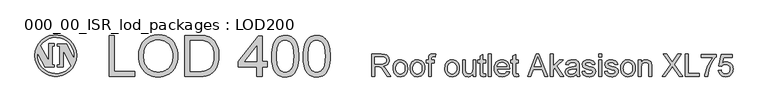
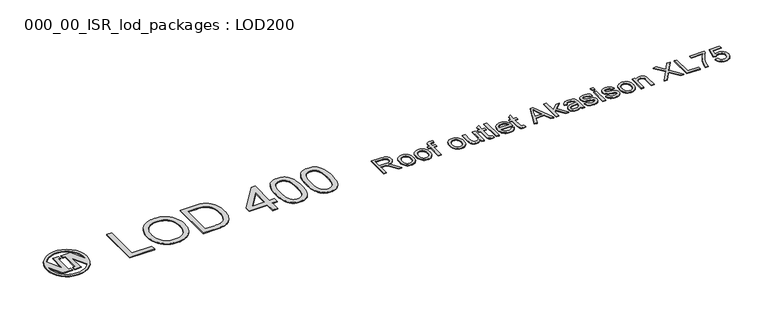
"""IFC4 building model written with IfcOpenShell, lengths in millimetres: proxy geometry, 000_00_ISR_lod_packages : LOD200."""

from ifc_helpers import new_model, si_unit, point, frame_2d, origin, origin_with_axes, place, context, project, spatial, polyline, circle_curve, trimmed, segment, composite_curve, outline, extrude, source, transform, mapped, element, save


def proxy_000_00_isr_lod_packages_lod200_d244b15a(model_context):
    return source(origin(), model_context, "Body", "SweptSolid", [
        extrude(outline(composite_curve([segment(trimmed(circle_curve(frame_2d((1250.0, 1250.0)), 750.0), [point((500.0, 1250.0))], [point((2000.0, 1250.0))], False, "CARTESIAN"), True, "CONTINUOUS"), segment(trimmed(circle_curve(frame_2d((1250.0, 1250.0)), 750.0), [point((2000.0, 1250.0))], [point((500.0, 1250.0))], False, "CARTESIAN"), True, "CONTINUOUS")], self_intersect=False), holes=[composite_curve([segment(polyline([(1785.9508714, 882.2274298), (1534.3731174, 1355.3763699), (1534.3731174, 814.8645493), (1287.5, 814.8645493), (1287.5, 935.1354507), (1371.8731174, 935.1354507), (1371.8731174, 1571.1145493), (1287.5, 1571.1145493), (1287.5, 1691.3854507), (1640.2267495, 1691.3854507), (1898.4865453, 1205.6694177)]), True, "CONTINUOUS"), segment(trimmed(circle_curve(frame_2d((1250.0, 1250.0)), 650.0), [point((1898.4865453, 1205.6694177))], [point((714.0491286, 1617.7725702))], True, "CARTESIAN"), True, "CONTINUOUS"), segment(polyline([(714.0491286, 1617.7725702), (978.1268826, 1121.1145493), (978.1268826, 1696.1145493), (1212.5, 1696.1145493), (1212.5, 1571.1145493), (1140.6268826, 1571.1145493), (1140.6268826, 935.1354507), (1212.5, 935.1354507), (1212.5, 814.8645493), (856.4500666, 814.8645493), (601.5134547, 1294.3305823)]), True, "CONTINUOUS"), segment(trimmed(circle_curve(frame_2d((1250.0, 1250.0)), 650.0), [point((601.5134547, 1294.3305823))], [point((1785.9508714, 882.2274298))], True, "CARTESIAN"), True, "CONTINUOUS")], self_intersect=False)]), origin_with_axes(), (0.0, 0.0, 1.0), 25.0),
        extrude(outline(polyline([(12587.4331389, 500.0), (12587.4331389, 1299.3886983), (12931.8962865, 1299.3886983), (13024.4768563, 1293.9973134), (13061.3078221, 1287.2580822), (13091.8325751, 1277.8231585), (13117.8258813, 1264.966779), (13141.0625066, 1247.9631803), (13161.5424508, 1226.8123624), (13179.265714, 1201.5143252), (13193.5675214, 1173.4291129), (13203.7830981, 1143.9167692), (13209.9124441, 1112.9772942), (13211.9555595, 1080.6106879), (13208.5706967, 1039.5532178), (13198.4161085, 1001.8623139), (13181.4917949, 967.5379762), (13157.7977558, 936.5802046), (13127.0290487, 909.9770132), (13088.8807309, 888.716416), (13043.3528025, 872.7984129), (12990.4452634, 862.2230039), (13023.3790629, 840.7062549), (13047.237771, 819.4822508), (13088.1732641, 770.9353907), (13128.2305225, 716.6312146), (13261.5270266, 500.0), (13145.404889, 500.0), (13041.3828733, 665.6936047), (12966.2450196, 775.3753548), (12938.3122785, 807.3577335), (12913.4533587, 827.1911994), (12889.9117909, 838.8278086), (12865.9311058, 846.2196169), (12807.9676186, 849.7325555), (12687.3567262, 849.7325555), (12687.3567262, 500.0), (12587.4331389, 500.0)]), holes=[polyline([(12687.3567262, 949.6561428), (12911.013818, 949.6561428), (12975.2469248, 953.1934768), (13025.0867414, 963.8054789), (13062.6068775, 982.1996158), (13077.5246689, 994.5802849), (13089.8809426, 1009.0833544), (13106.4942148, 1041.602432), (13112.0319722, 1076.902586), (13109.3911694, 1102.4567749), (13101.4687609, 1125.6446093), (13088.2647468, 1146.4660892), (13069.7791272, 1164.9212147), (13045.5849822, 1180.0341693), (13015.2553924, 1190.829137), (12978.7903577, 1197.3061175), (12936.1898781, 1199.465111), (12687.3567262, 1199.465111), (12687.3567262, 949.6561428)])]), origin_with_axes(), (0.0, 0.0, 1.0), 25.0),
        extrude(outline(polyline([(13349.350492, 793.5255377), (13354.7540747, 869.5538238), (13361.508553, 903.6250591), (13370.9648226, 935.0676894), (13383.1228836, 963.8817146), (13397.982736, 990.0671346), (13415.5443796, 1013.6239495), (13435.8078146, 1034.5521594), (13473.889045, 1062.9850063), (13515.9223314, 1083.2941827), (13561.9076736, 1095.4796885), (13611.8450719, 1099.5415238), (13666.972593, 1094.595355), (13716.8185084, 1079.7568486), (13761.3828183, 1055.0260047), (13800.6655225, 1020.4028233), (13832.7271862, 977.0582838), (13855.6283746, 926.1633658), (13869.3690876, 867.7180694), (13873.9493253, 801.7223944), (13871.9245065, 748.2354645), (13865.8500501, 700.7742001), (13855.7259562, 659.3386012), (13841.5522247, 623.9286678), (13823.5057223, 593.3429262), (13801.7633158, 566.3799026), (13776.3250051, 543.0395969), (13747.1907902, 523.3220091), (13715.4950576, 507.654059), (13682.3721937, 496.462666), (13647.8221984, 489.7478302), (13611.8450719, 487.5095516), (13555.9125024, 492.4374238), (13505.6030742, 507.2210405), (13460.9167873, 531.8604016), (13421.8536418, 566.3555072), (13390.1335137, 610.1208674), (13367.4762794, 662.5709926), (13353.8819388, 723.7058827), (13349.350492, 793.5255377)]), holes=[polyline([(13449.2740793, 793.7207009), (13452.164935, 745.253126), (13460.8375022, 703.286927), (13475.2917809, 667.822104), (13495.5277711, 638.858657), (13520.1427368, 616.3599928), (13547.7339422, 600.2895184), (13578.3013872, 590.6472338), (13611.8450719, 587.4331389), (13645.2179887, 590.6655303), (13675.6634567, 600.3627046), (13703.1814759, 616.5246618), (13727.7720462, 639.1514018), (13748.0080364, 668.4014949), (13762.462315, 704.4335111), (13771.1348822, 747.2474505), (13774.025738, 796.843313), (13771.1165857, 843.7739774), (13762.3891288, 884.642383), (13747.8433674, 919.44853), (13727.4793013, 948.1924184), (13702.7972482, 970.6910825), (13675.2975256, 986.7615569), (13644.9801335, 996.4038416), (13611.8450719, 999.6179365), (13578.3013872, 996.4160393), (13547.7339422, 986.8103478), (13520.1427368, 970.8008619), (13495.5277711, 948.3875817), (13475.2917809, 919.5095186), (13460.8375022, 884.1056841), (13452.164935, 842.1760782), (13449.2740793, 793.7207009)])]), origin_with_axes(), (0.0, 0.0, 1.0), 25.0),
        extrude(outline(polyline([(13961.3824642, 793.5255377), (13966.7860468, 869.5538238), (13973.5405251, 903.6250591), (13982.9967948, 935.0676894), (13995.1548558, 963.8817146), (14010.0147081, 990.0671346), (14027.5763518, 1013.6239495), (14047.8397868, 1034.5521594), (14085.9210172, 1062.9850063), (14127.9543035, 1083.2941827), (14173.9396458, 1095.4796885), (14223.8770441, 1099.5415238), (14279.0045651, 1094.595355), (14328.8504806, 1079.7568486), (14373.4147904, 1055.0260047), (14412.6974947, 1020.4028233), (14444.7591584, 977.0582838), (14467.6603467, 926.1633658), (14481.4010598, 867.7180694), (14485.9812974, 801.7223944), (14483.9564787, 748.2354645), (14477.8820223, 700.7742001), (14467.7579284, 659.3386012), (14453.5841969, 623.9286678), (14435.5376945, 593.3429262), (14413.795288, 566.3799026), (14388.3569773, 543.0395969), (14359.2227624, 523.3220091), (14327.5270298, 507.654059), (14294.4041658, 496.462666), (14259.8541706, 489.7478302), (14223.8770441, 487.5095516), (14167.9444745, 492.4374238), (14117.6350463, 507.2210405), (14072.9487595, 531.8604016), (14033.8856139, 566.3555072), (14002.1654859, 610.1208674), (13979.5082516, 662.5709926), (13965.913911, 723.7058827), (13961.3824642, 793.5255377)]), holes=[polyline([(14061.3060514, 793.7207009), (14064.1969072, 745.253126), (14072.8694744, 703.286927), (14087.3237531, 667.822104), (14107.5597432, 638.858657), (14132.1747089, 616.3599928), (14159.7659143, 600.2895184), (14190.3333594, 590.6472338), (14223.8770441, 587.4331389), (14257.2499609, 590.6655303), (14287.6954289, 600.3627046), (14315.2134481, 616.5246618), (14339.8040184, 639.1514018), (14360.0400085, 668.4014949), (14374.4942872, 704.4335111), (14383.1668544, 747.2474505), (14386.0577102, 796.843313), (14383.1485579, 843.7739774), (14374.421101, 884.642383), (14359.8753395, 919.44853), (14339.5112735, 948.1924184), (14314.8292204, 970.6910825), (14287.3294978, 986.7615569), (14257.0121057, 996.4038416), (14223.8770441, 999.6179365), (14190.3333594, 996.4160393), (14159.7659143, 986.8103478), (14132.1747089, 970.8008619), (14107.5597432, 948.3875817), (14087.3237531, 919.5095186), (14072.8694744, 884.1056841), (14064.1969072, 842.1760782), (14061.3060514, 793.7207009)])]), origin_with_axes(), (0.0, 0.0, 1.0), 25.0),
        extrude(outline(polyline([(14623.37623, 500.0), (14623.37623, 987.1274881), (14535.9430911, 987.1274881), (14535.9430911, 1087.0510753), (14623.37623, 1087.0510753), (14623.37623, 1146.185542), (14626.0109339, 1195.1227286), (14633.9150458, 1229.5202525), (14642.5998107, 1246.9995617), (14654.0168612, 1262.7467969), (14685.047819, 1289.0450458), (14705.0276574, 1299.0349649), (14728.4716436, 1306.1706215), (14755.3797775, 1310.4520154), (14785.7520593, 1311.8791468), (14829.1270931, 1309.1468612), (14876.8933001, 1300.9500044), (14862.2560558, 1207.2716413), (14804.6828952, 1211.9555595), (14766.6992464, 1207.8083403), (14752.5926023, 1202.6243163), (14741.742745, 1195.3666827), (14733.6739641, 1185.2791818), (14727.9105492, 1171.6055562), (14723.2998173, 1133.4999304), (14723.2998173, 1087.0510753), (14835.713853, 1087.0510753), (14835.713853, 987.1274881), (14723.2998173, 987.1274881), (14723.2998173, 500.0), (14623.37623, 500.0)])), origin_with_axes(), (0.0, 0.0, 1.0), 25.0),
        extrude(outline(polyline([(15210.4273053, 793.5255377), (15215.830888, 869.5538238), (15222.5853663, 903.6250591), (15232.041636, 935.0676894), (15244.199697, 963.8817146), (15259.0595493, 990.0671346), (15276.6211929, 1013.6239495), (15296.8846279, 1034.5521594), (15334.9658583, 1062.9850063), (15376.9991447, 1083.2941827), (15422.984487, 1095.4796885), (15472.9218852, 1099.5415238), (15528.0494063, 1094.595355), (15577.8953218, 1079.7568486), (15622.4596316, 1055.0260047), (15661.7423358, 1020.4028233), (15693.8039995, 977.0582838), (15716.7051879, 926.1633658), (15730.4459009, 867.7180694), (15735.0261386, 801.7223944), (15733.0013198, 748.2354645), (15726.9268635, 700.7742001), (15716.8027695, 659.3386012), (15702.629038, 623.9286678), (15684.5825357, 593.3429262), (15662.8401291, 566.3799026), (15637.4018184, 543.0395969), (15608.2676036, 523.3220091), (15576.5718709, 507.654059), (15543.449007, 496.462666), (15508.8990118, 489.7478302), (15472.9218852, 487.5095516), (15416.9893157, 492.4374238), (15366.6798875, 507.2210405), (15321.9936006, 531.8604016), (15282.9304551, 566.3555072), (15251.2103271, 610.1208674), (15228.5530928, 662.5709926), (15214.9587522, 723.7058827), (15210.4273053, 793.5255377)]), holes=[polyline([(15310.3508926, 793.7207009), (15313.2417483, 745.253126), (15321.9143156, 703.286927), (15336.3685942, 667.822104), (15356.6045844, 638.858657), (15381.2195501, 616.3599928), (15408.8107555, 600.2895184), (15439.3782005, 590.6472338), (15472.9218852, 587.4331389), (15506.2948021, 590.6655303), (15536.7402701, 600.3627046), (15564.2582892, 616.5246618), (15588.8488595, 639.1514018), (15609.0848497, 668.4014949), (15623.5391284, 704.4335111), (15632.2116956, 747.2474505), (15635.1025513, 796.843313), (15632.193399, 843.7739774), (15623.4659421, 884.642383), (15608.9201807, 919.44853), (15588.5561147, 948.1924184), (15563.8740616, 970.6910825), (15536.374339, 986.7615569), (15506.0569468, 996.4038416), (15472.9218852, 999.6179365), (15439.3782005, 996.4160393), (15408.8107555, 986.8103478), (15381.2195501, 970.8008619), (15356.6045844, 948.3875817), (15336.3685942, 919.5095186), (15321.9143156, 884.1056841), (15313.2417483, 842.1760782), (15310.3508926, 793.7207009)])]), origin_with_axes(), (0.0, 0.0, 1.0), 25.0),
        extrude(outline(polyline([(16222.1536267, 500.0), (16222.1536267, 600.8994036), (16204.8206899, 574.323657), (16185.9996334, 551.2913433), (16165.690457, 531.8024625), (16143.8931608, 515.8570146), (16120.6077448, 503.4549995), (16095.8342089, 494.5964173), (16069.5725532, 489.281268), (16041.8227777, 487.5095516), (15993.1539406, 492.4862146), (15947.8516697, 507.4162037), (15909.8436256, 529.8599782), (15883.0574686, 557.3779974), (15865.0292628, 590.7997051), (15853.295072, 630.9545451), (15848.9038987, 668.8162168), (15847.4401743, 723.8522551), (15847.4401743, 1087.0510753), (15947.3637616, 1087.0510753), (15947.3637616, 770.8865999), (15948.8762768, 707.6537048), (15953.4138225, 669.0113801), (15959.3967961, 651.0014708), (15967.9778806, 635.028578), (15979.1570758, 621.0927018), (15992.934382, 609.193842), (16008.895077, 599.6735344), (16026.6244391, 592.8733147), (16067.3891643, 587.4331389), (16110.4958486, 592.9952917), (16150.8214564, 609.6817501), (16168.8679588, 621.8123663), (16184.0723962, 635.9556035), (16196.4347688, 652.1114618), (16205.9550764, 670.2799412), (16218.1039891, 717.2898906), (16222.1536267, 781.620579), (16222.1536267, 1087.0510753), (16322.0772139, 1087.0510753), (16322.0772139, 500.0), (16222.1536267, 500.0)])), origin_with_axes(), (0.0, 0.0, 1.0), 25.0),
        extrude(outline(polyline([(16671.8097695, 583.3347105), (16684.3002179, 497.0725512), (16644.7308676, 489.9003015), (16609.5526907, 487.5095516), (16561.5913204, 491.6567708), (16525.8276537, 504.0984284), (16500.554012, 523.2732183), (16484.0627168, 547.6198346), (16474.9876254, 589.4335623), (16471.9625949, 661.0096866), (16471.9625949, 987.1274881), (16397.0199044, 987.1274881), (16397.0199044, 1087.0510753), (16471.9625949, 1087.0510753), (16471.9625949, 1229.7154158), (16571.8861822, 1288.459556), (16571.8861822, 1087.0510753), (16671.8097695, 1087.0510753), (16671.8097695, 987.1274881), (16571.8861822, 987.1274881), (16571.8861822, 663.9371354), (16573.2035342, 631.0521267), (16577.1555901, 612.4140357), (16584.0594903, 602.0947785), (16594.232375, 594.1662712), (16608.6500606, 589.116422), (16628.2883633, 587.4331389), (16671.8097695, 583.3347105)])), origin_with_axes(), (0.0, 0.0, 1.0), 25.0),
        extrude(outline(polyline([(16771.7333568, 500.0), (16771.7333568, 1299.3886983), (16871.6569441, 1299.3886983), (16871.6569441, 500.0), (16771.7333568, 500.0)])), origin_with_axes(), (0.0, 0.0, 1.0), 25.0),
        extrude(outline(polyline([(17432.556143, 674.8662778), (17530.5280978, 662.3758294), (17515.5066259, 623.1358171), (17495.2279438, 588.5553276), (17469.6920514, 558.6343609), (17438.8989489, 533.3729168), (17403.1657764, 513.3076945), (17362.8096743, 498.9753929), (17317.8306425, 490.3760119), (17268.2286811, 487.5095516), (17206.2277541, 492.4557204), (17150.9843548, 507.2942267), (17102.4984833, 532.0250706), (17060.7701395, 566.6482521), (17027.2142571, 610.2001525), (17003.2457697, 661.7171534), (16988.8646772, 721.1992546), (16984.0709798, 788.6464563), (16988.9134681, 858.3807273), (17003.440933, 919.8449554), (17027.6533745, 973.0391405), (17043.3914614, 996.5349669), (17061.5507926, 1017.9632826), (17103.169357, 1053.6537631), (17150.5452375, 1079.1469635), (17203.6784341, 1094.4428837), (17262.5689467, 1099.5415238), (17319.5627164, 1094.4550814), (17371.1041127, 1079.1957543), (17417.1931354, 1053.7635424), (17457.8297847, 1018.1584458), (17491.0014395, 973.3318854), (17514.6954786, 920.2352819), (17528.9119021, 858.8686355), (17533.6507099, 789.231946), (17533.0652201, 762.2994166), (17083.9945671, 762.2994166), (17089.7823774, 722.4251238), (17101.2909107, 687.5030986), (17118.5201669, 657.5333411), (17141.4701461, 632.5158511), (17168.872287, 612.7921645), (17199.4580286, 598.7038169), (17233.2273709, 590.2508084), (17270.1803137, 587.4331389), (17323.3623011, 592.653756), (17368.1522684, 608.3156073), (17387.4002446, 620.3059499), (17404.5502157, 635.3945091), (17419.6021819, 653.5812851), (17432.556143, 674.8662778)]), holes=[polyline([(17083.9945671, 862.2230039), (17433.7271226, 862.2230039), (17428.5918894, 890.4972807), (17420.2120671, 915.0146648), (17408.5876556, 935.7751562), (17393.718655, 952.7787549), (17366.4689853, 973.2708968), (17335.462423, 987.9081411), (17300.6989679, 996.6904876), (17262.1786202, 999.6179365), (17227.0431352, 997.2820762), (17194.8229013, 990.2744956), (17165.5179186, 978.5951944), (17139.128187, 962.2441729), (17116.9832562, 941.9776884), (17100.412676, 918.5519988), (17089.4164463, 891.967104), (17083.9945671, 862.2230039)])]), origin_with_axes(), (0.0, 0.0, 1.0), 25.0),
        extrude(outline(polyline([(17845.9119202, 583.3347105), (17858.4023686, 497.0725512), (17818.8330183, 489.9003015), (17783.6548414, 487.5095516), (17735.6934711, 491.6567708), (17699.9298044, 504.0984284), (17674.6561626, 523.2732183), (17658.1648675, 547.6198346), (17649.0897761, 589.4335623), (17646.0647456, 661.0096866), (17646.0647456, 987.1274881), (17571.1220551, 987.1274881), (17571.1220551, 1087.0510753), (17646.0647456, 1087.0510753), (17646.0647456, 1229.7154158), (17745.9883329, 1288.459556), (17745.9883329, 1087.0510753), (17845.9119202, 1087.0510753), (17845.9119202, 987.1274881), (17745.9883329, 987.1274881), (17745.9883329, 663.9371354), (17747.3056849, 631.0521267), (17751.2577408, 612.4140357), (17758.161641, 602.0947785), (17768.3345257, 594.1662712), (17782.7522113, 589.116422), (17802.390514, 587.4331389), (17845.9119202, 583.3347105)])), origin_with_axes(), (0.0, 0.0, 1.0), 25.0),
        extrude(outline(polyline([(18177.4942928, 500.0), (18496.5862171, 1299.3886983), (18581.6773969, 1299.3886983), (18900.7693212, 500.0), (18795.1859994, 500.0), (18703.6544322, 749.8089682), (18374.4140186, 749.8089682), (18283.0776146, 500.0), (18177.4942928, 500.0)]), holes=[polyline([(18411.1047108, 849.7325555), (18667.1589032, 849.7325555), (18595.1436616, 1046.2619548), (18539.131807, 1199.465111), (18489.3651766, 1063.4363213), (18411.1047108, 849.7325555)])]), origin_with_axes(), (0.0, 0.0, 1.0), 25.0),
        extrude(outline(polyline([(18995.033174, 500.0), (18995.033174, 1299.3886983), (19094.9567613, 1299.3886983), (19094.9567613, 869.8343709), (19319.0041797, 1087.0510753), (19457.1797653, 1087.0510753), (19230.4000613, 867.1020853), (19469.6702137, 500.0), (19352.9625863, 500.0), (19158.7751462, 797.6239661), (19094.9567613, 735.7572138), (19094.9567613, 500.0), (18995.033174, 500.0)])), origin_with_axes(), (0.0, 0.0, 1.0), 25.0),
        extrude(outline(polyline([(19931.8168049, 574.9426905), (19884.0749933, 534.0071974), (19859.6734874, 518.8454519), (19834.9182481, 507.2210405), (19783.2243805, 492.4374238), (19727.8712019, 487.5095516), (19683.3800783, 490.4735935), (19644.3657236, 499.3657194), (19610.8281377, 514.1859292), (19582.7673208, 534.9342229), (19560.6101923, 560.2932485), (19544.783672, 588.9456541), (19535.2877598, 620.8914397), (19532.1224557, 656.1306051), (19536.9039555, 697.5540063), (19551.2484549, 735.171724), (19573.3750891, 767.3736613), (19601.5029934, 792.5497214), (19634.5587699, 811.5781389), (19671.4690208, 825.3371485), (19757.9263434, 840.3647192), (19860.0943082, 856.172943), (19931.2313151, 874.7134523), (19931.8168049, 896.9620636), (19930.0969287, 921.1867028), (19924.9373001, 941.5568677), (19916.3379191, 958.0725583), (19904.2987857, 970.7337745), (19883.4895035, 983.3705954), (19858.1426756, 992.396896), (19828.258302, 997.8126763), (19793.8363826, 999.6179365), (19734.3115894, 994.8120413), (19711.2823251, 988.8046723), (19692.7418158, 980.3943557), (19677.5068841, 968.9224155), (19664.3943528, 953.7301758), (19653.4042219, 934.8176365), (19644.5364914, 912.1847976), (19544.6129041, 924.675246), (19561.9580386, 979.3209578), (19573.8325029, 1002.2526404), (19587.8415654, 1022.2568742), (19604.5890124, 1039.7361834), (19624.6786301, 1055.0930921), (19648.1104186, 1068.3276004), (19674.8843778, 1079.4397083), (19736.2876174, 1094.5160699), (19806.7171575, 1099.5415238), (19874.2680397, 1095.1015597), (19927.8159581, 1081.7816674), (19968.1903568, 1061.7530382), (19996.2206795, 1037.1868633), (20014.8099797, 1006.8145815), (20026.8613108, 969.3676317), (20030.5206218, 934.8237353), (20031.7403922, 881.9344928), (20031.7403922, 757.6154985), (20033.0089534, 649.3242866), (20036.8146369, 584.0177819), (20044.3284222, 541.1062609), (20056.721289, 500.0), (19956.7977017, 500.0), (19940.7943147, 534.7390596), (19931.8168049, 574.9426905)]), holes=[polyline([(19931.8168049, 774.7898651), (19864.6806447, 758.1521974), (19770.6119551, 744.1492338), (19718.7717151, 736.489076), (19684.6425406, 727.9506835), (19662.2719524, 716.8751687), (19645.707471, 701.6036439), (19635.4614, 683.3070886), (19632.046043, 663.1564824), (19633.9061928, 647.6288058), (19639.4866422, 633.4428766), (19648.7873911, 620.5986948), (19661.8084396, 609.0962603), (19678.4278107, 599.6186447), (19698.5235272, 592.8489192), (19749.1439969, 587.4331389), (19802.8138924, 593.4100136), (19827.3068811, 600.881107), (19850.2385637, 611.3406378), (19888.6857252, 637.7608636), (19915.4230914, 669.2065433), (19927.2792592, 701.6036439), (19931.2313151, 746.4911929), (19931.8168049, 774.7898651)])]), origin_with_axes(), (0.0, 0.0, 1.0), 25.0),
        extrude(outline(polyline([(20131.6639795, 674.8662778), (20231.5875668, 687.3567262), (20237.62543, 664.571416), (20247.3469997, 644.615973), (20260.7522759, 627.4903973), (20277.8412586, 613.1946887), (20298.6627385, 601.9240107), (20323.2655065, 593.8735263), (20351.6495626, 589.0432357), (20383.8149068, 587.4331389), (20415.9436579, 588.909061), (20443.6324449, 593.3368274), (20466.8812678, 600.716438), (20485.6901267, 611.0478929), (20500.2053938, 623.3675735), (20510.5734418, 636.7118611), (20516.7942706, 651.0807559), (20518.8678802, 666.4742577), (20516.7820729, 679.9649178), (20510.524651, 691.9430627), (20500.0956145, 702.4086923), (20485.4949634, 711.3618067), (20448.072409, 724.0474184), (20382.6439273, 739.8556422), (20291.4538957, 766.2270772), (20232.1730565, 788.7440379), (20194.0918261, 813.3102128), (20178.9849703, 828.5756388), (20166.5006208, 845.8292904), (20149.7409761, 884.2276611), (20144.1544279, 926.4317153), (20148.6431828, 965.1472263), (20162.1094475, 1000.8864976), (20183.3334516, 1032.2345957), (20211.0954249, 1057.7765869), (20238.6866302, 1073.8531601), (20274.6210648, 1087.3438202), (20316.166443, 1096.4920979), (20360.5904793, 1099.5415238), (20425.6286345, 1094.6380469), (20482.177188, 1079.9276165), (20527.6502268, 1056.8495614), (20545.2637107, 1042.712423), (20559.4618376, 1026.8432107), (20580.5394693, 987.6885824), (20593.8105707, 937.1656944), (20493.8869834, 924.675246), (20489.1237802, 941.3678033), (20481.274558, 956.1209257), (20470.3393168, 968.9346132), (20456.3180566, 979.8088659), (20439.1497888, 988.4753343), (20418.7735251, 994.6656688), (20368.3970095, 999.6179365), (20311.0190121, 994.8852275), (20289.5022631, 988.9693413), (20272.7670139, 980.6871006), (20251.2502649, 960.1949587), (20245.8710776, 948.7779082), (20244.0780152, 936.5802046), (20247.0542548, 921.2110982), (20255.9829738, 907.5008794), (20271.2544986, 895.2543851), (20293.2591558, 885.4474315), (20379.3261519, 864.1746365), (20467.61313, 838.071551), (20525.9913391, 817.1402917), (20564.7312455, 794.6477264), (20594.1033156, 763.8607227), (20604.9043821, 745.332411), (20612.6194296, 724.681699), (20617.248458, 701.9085865), (20618.7914675, 677.0130736), (20616.9801086, 652.0077814), (20611.5460316, 627.7343513), (20602.4892368, 604.1927835), (20589.809724, 581.3830779), (20573.7148542, 560.2139635), (20554.4119883, 541.594169), (20531.9011265, 525.5236946), (20506.1822686, 512.0025403), (20477.9567826, 501.2868577), (20447.9260365, 493.6327988), (20416.0900303, 489.0403634), (20382.448764, 487.5095516), (20328.6690891, 490.4613958), (20281.6957329, 499.3169286), (20241.5286952, 514.0761499), (20208.167976, 534.7390596), (20180.9183063, 561.2080763), (20159.084417, 593.3856182), (20142.6663081, 631.2716854), (20131.6639795, 674.8662778)])), origin_with_axes(), (0.0, 0.0, 1.0), 25.0),
        extrude(outline(polyline([(20731.2055032, 1199.465111), (20731.2055032, 1299.3886983), (20831.1290905, 1299.3886983), (20831.1290905, 1199.465111), (20731.2055032, 1199.465111)])), origin_with_axes(), (0.0, 0.0, 1.0), 25.0),
        extrude(outline(polyline([(20731.2055032, 500.0), (20731.2055032, 1087.0510753), (20831.1290905, 1087.0510753), (20831.1290905, 500.0), (20731.2055032, 500.0)])), origin_with_axes(), (0.0, 0.0, 1.0), 25.0),
        extrude(outline(polyline([(20943.5431262, 674.8662778), (21043.4667135, 687.3567262), (21049.5045768, 664.571416), (21059.2261465, 644.615973), (21072.6314227, 627.4903973), (21089.7204053, 613.1946887), (21110.5418852, 601.9240107), (21135.1446532, 593.8735263), (21163.5287093, 589.0432357), (21195.6940535, 587.4331389), (21227.8228046, 588.909061), (21255.5115916, 593.3368274), (21278.7604146, 600.716438), (21297.5692734, 611.0478929), (21312.0845406, 623.3675735), (21322.4525886, 636.7118611), (21328.6734174, 651.0807559), (21330.747027, 666.4742577), (21328.6612197, 679.9649178), (21322.4037978, 691.9430627), (21311.9747613, 702.4086923), (21297.3741101, 711.3618067), (21259.9515557, 724.0474184), (21194.523074, 739.8556422), (21103.3330424, 766.2270772), (21044.0522033, 788.7440379), (21005.9709729, 813.3102128), (20990.8641171, 828.5756388), (20978.3797675, 845.8292904), (20961.6201229, 884.2276611), (20956.0335746, 926.4317153), (20960.5223295, 965.1472263), (20973.9885942, 1000.8864976), (20995.2125984, 1032.2345957), (21022.9745716, 1057.7765869), (21050.565777, 1073.8531601), (21086.5002116, 1087.3438202), (21128.0455898, 1096.4920979), (21172.469626, 1099.5415238), (21237.5077812, 1094.6380469), (21294.0563348, 1079.9276165), (21339.5293735, 1056.8495614), (21357.1428574, 1042.712423), (21371.3409843, 1026.8432107), (21392.418616, 987.6885824), (21405.6897175, 937.1656944), (21305.7661302, 924.675246), (21301.0029269, 941.3678033), (21293.1537047, 956.1209257), (21282.2184635, 968.9346132), (21268.1972033, 979.8088659), (21251.0289356, 988.4753343), (21230.6526719, 994.6656688), (21180.2761563, 999.6179365), (21122.8981589, 994.8852275), (21101.3814099, 988.9693413), (21084.6461606, 980.6871006), (21063.1294116, 960.1949587), (21057.7502244, 948.7779082), (21055.9571619, 936.5802046), (21058.9334016, 921.2110982), (21067.8621206, 907.5008794), (21083.1336454, 895.2543851), (21105.1383026, 885.4474315), (21191.2052986, 864.1746365), (21279.4922768, 838.071551), (21337.8704859, 817.1402917), (21376.6103923, 794.6477264), (21405.9824624, 763.8607227), (21416.7835288, 745.332411), (21424.4985763, 724.681699), (21429.1276048, 701.9085865), (21430.6706143, 677.0130736), (21428.8592553, 652.0077814), (21423.4251784, 627.7343513), (21414.3683835, 604.1927835), (21401.6888707, 581.3830779), (21385.5940009, 560.2139635), (21366.2911351, 541.594169), (21343.7802732, 525.5236946), (21318.0614153, 512.0025403), (21289.8359294, 501.2868577), (21259.8051833, 493.6327988), (21227.9691771, 489.0403634), (21194.3279108, 487.5095516), (21140.5482359, 490.4613958), (21093.5748796, 499.3169286), (21053.4078419, 514.0761499), (21020.0471228, 534.7390596), (20992.7974531, 561.2080763), (20970.9635638, 593.3856182), (20954.5454548, 631.2716854), (20943.5431262, 674.8662778)])), origin_with_axes(), (0.0, 0.0, 1.0), 25.0),
        extrude(outline(polyline([(21518.1037532, 793.5255377), (21523.5073358, 869.5538238), (21530.2618142, 903.6250591), (21539.7180838, 935.0676894), (21551.8761448, 963.8817146), (21566.7359971, 990.0671346), (21584.2976408, 1013.6239495), (21604.5610758, 1034.5521594), (21642.6423062, 1062.9850063), (21684.6755925, 1083.2941827), (21730.6609348, 1095.4796885), (21780.5983331, 1099.5415238), (21835.7258542, 1094.595355), (21885.5717696, 1079.7568486), (21930.1360795, 1055.0260047), (21969.4187837, 1020.4028233), (22001.4804474, 977.0582838), (22024.3816358, 926.1633658), (22038.1223488, 867.7180694), (22042.7025865, 801.7223944), (22040.6777677, 748.2354645), (22034.6033113, 700.7742001), (22024.4792174, 659.3386012), (22010.3054859, 623.9286678), (21992.2589835, 593.3429262), (21970.516577, 566.3799026), (21945.0782663, 543.0395969), (21915.9440514, 523.3220091), (21884.2483188, 507.654059), (21851.1254549, 496.462666), (21816.5754596, 489.7478302), (21780.5983331, 487.5095516), (21724.6657635, 492.4374238), (21674.3563354, 507.2210405), (21629.6700485, 531.8604016), (21590.6069029, 566.3555072), (21558.8867749, 610.1208674), (21536.2295406, 662.5709926), (21522.6352, 723.7058827), (21518.1037532, 793.5255377)]), holes=[polyline([(21618.0273405, 793.7207009), (21620.9181962, 745.253126), (21629.5907634, 703.286927), (21644.0450421, 667.822104), (21664.2810322, 638.858657), (21688.895998, 616.3599928), (21716.4872033, 600.2895184), (21747.0546484, 590.6472338), (21780.5983331, 587.4331389), (21813.9712499, 590.6655303), (21844.4167179, 600.3627046), (21871.9347371, 616.5246618), (21896.5253074, 639.1514018), (21916.7612975, 668.4014949), (21931.2155762, 704.4335111), (21939.8881434, 747.2474505), (21942.7789992, 796.843313), (21939.8698469, 843.7739774), (21931.14239, 884.642383), (21916.5966285, 919.44853), (21896.2325625, 948.1924184), (21871.5505094, 970.6910825), (21844.0507868, 986.7615569), (21813.7333947, 996.4038416), (21780.5983331, 999.6179365), (21747.0546484, 996.4160393), (21716.4872033, 986.8103478), (21688.895998, 970.8008619), (21664.2810322, 948.3875817), (21644.0450421, 919.5095186), (21629.5907634, 884.1056841), (21620.9181962, 842.1760782), (21618.0273405, 793.7207009)])]), origin_with_axes(), (0.0, 0.0, 1.0), 25.0),
        extrude(outline(polyline([(22155.1166222, 500.0), (22155.1166222, 1087.0510753), (22255.0402095, 1087.0510753), (22255.0402095, 1005.0825076), (22271.5254058, 1027.2213395), (22289.7548737, 1046.4083272), (22309.7286132, 1062.6434706), (22331.4466243, 1075.9267697), (22354.9089071, 1086.2582246), (22380.1154614, 1093.6378352), (22435.7613849, 1099.5415238), (22485.0157118, 1094.7844194), (22530.1228194, 1080.5131063), (22567.7405371, 1058.5084491), (22594.526694, 1030.5513126), (22612.7012723, 996.714883), (22624.4842539, 957.0723466), (22628.4363098, 919.161884), (22629.7536618, 860.4665346), (22629.7536618, 500.0), (22529.8300745, 500.0), (22529.8300745, 847.0002699), (22526.9514165, 898.6697421), (22518.3154424, 935.4092251), (22502.3852416, 961.7318693), (22477.6239034, 982.150825), (22445.8854788, 995.2511586), (22409.0240188, 999.6179365), (22378.6822313, 997.1661981), (22350.4994373, 989.8109828), (22324.4756368, 977.5522908), (22300.6108298, 960.3901219), (22280.6736834, 936.3728437), (22266.4328645, 903.5488235), (22257.8883732, 861.9180613), (22255.0402095, 811.4805573), (22255.0402095, 500.0), (22155.1166222, 500.0)])), origin_with_axes(), (0.0, 0.0, 1.0), 25.0),
        extrude(outline(polyline([(23004.4671142, 500.0), (23312.6298961, 935.6043884), (23054.4289078, 1299.3886983), (23174.2591472, 1299.3886983), (23319.6557733, 1094.6624423), (23354.3460421, 1042.7978069), (23368.6417507, 1014.8406705), (23426.019748, 1096.0285851), (23569.855068, 1299.3886983), (23691.4417768, 1299.3886983), (23433.2407885, 934.4334088), (23741.4035704, 500.0), (23621.573331, 500.0), (23416.2615852, 789.6222725), (23373.5208321, 849.7325555), (23326.4864873, 783.7673749), (23126.0538229, 500.0), (23004.4671142, 500.0)])), origin_with_axes(), (0.0, 0.0, 1.0), 25.0),
        extrude(outline(polyline([(23841.3271577, 500.0), (23841.3271577, 1299.3886983), (23941.250745, 1299.3886983), (23941.250745, 599.9235873), (24340.9450942, 599.9235873), (24340.9450942, 500.0), (23841.3271577, 500.0)])), origin_with_axes(), (0.0, 0.0, 1.0), 25.0),
        extrude(outline(polyline([(24415.8877847, 1186.9746626), (24415.8877847, 1286.8982499), (24940.4866179, 1286.8982499), (24940.4866179, 1206.1006618), (24903.0091739, 1161.9998647), (24865.7146953, 1111.4708778), (24828.6031823, 1054.5137012), (24791.6746349, 991.1283348), (24756.9294764, 924.059262), (24726.3681302, 856.050966), (24699.9905964, 787.1034468), (24677.7968748, 717.2167044), (24653.9869575, 613.3410612), (24640.7158561, 500.0), (24540.7922688, 500.0), (24543.9331774, 549.0713613), (24551.5994341, 602.9974086), (24563.7910388, 661.7781419), (24580.5079915, 725.4135612), (24601.5551289, 790.8847349), (24626.7372878, 855.1727313), (24656.0544683, 918.2775505), (24689.5066702, 980.1991924), (24725.5874772, 1039.1201993), (24762.790473, 1093.2231133), (24801.1156574, 1142.5079344), (24840.5630307, 1186.9746626), (24415.8877847, 1186.9746626)])), origin_with_axes(), (0.0, 0.0, 1.0), 25.0),
        extrude(outline(polyline([(25027.9197568, 712.337623), (25127.8433441, 724.8280714), (25135.3083387, 692.7054192), (25146.1886902, 664.8397655), (25160.4843988, 641.2311103), (25178.1954643, 621.8794536), (25199.2852937, 606.8091909), (25223.7172938, 596.0447176), (25251.4914648, 589.5860336), (25282.6078065, 587.4331389), (25320.6646415, 590.4276751), (25354.2327216, 599.4112837), (25383.3120468, 614.3839648), (25407.9026171, 635.3457183), (25427.4555359, 661.2597395), (25441.4219064, 691.0892235), (25449.8017287, 724.8341703), (25452.5950028, 762.4945799), (25449.9785954, 798.0874788), (25442.1293732, 829.7283217), (25429.0473362, 857.4171087), (25410.7324843, 881.1538398), (25387.1238291, 900.194455), (25358.1603821, 913.7948944), (25323.8421432, 921.9551581), (25284.1691125, 924.675246), (25235.6954387, 920.3328635), (25196.4432288, 907.3057162), (25165.0951307, 887.3502732), (25140.3337925, 862.2230039), (25040.4102052, 874.7134523), (25127.8433441, 1286.8982499), (25515.0472449, 1286.8982499), (25515.0472449, 1186.9746626), (25208.6409323, 1186.9746626), (25165.9001791, 966.8305094), (25201.16374, 992.1041511), (25237.2811402, 1010.1567523), (25274.2523796, 1020.988313), (25312.0774582, 1024.5988333), (25360.7401964, 1020.1222761), (25405.438681, 1006.6926045), (25446.1729119, 984.3098185), (25482.9428892, 952.9739182), (25513.3822583, 914.5999429), (25535.1246649, 871.1029321), (25548.1701088, 822.4828858), (25552.5185901, 768.7398041), (25548.6031273, 716.9727503), (25536.8567388, 668.8162168), (25517.2794246, 624.2702035), (25489.8711848, 583.3347105), (25469.9767303, 560.8756889), (25448.350202, 541.4112035), (25424.9915997, 524.9412543), (25399.9009236, 511.4658413), (25373.0781735, 500.9849646), (25344.5233496, 493.498624), (25282.21748, 487.5095516), (25230.6516883, 491.3579271), (25184.0747574, 502.9030534), (25142.4866872, 522.1449308), (25105.8874778, 549.083559), (25075.4359109, 582.3771908), (25052.2907685, 620.6840787), (25036.4520504, 664.0042228), (25027.9197568, 712.337623)])), origin_with_axes(), (0.0, 0.0, 1.0), 25.0),
        extrude(outline(polyline([(3161.4179104, 500.0), (3161.4179104, 1975.8208955), (3345.8955224, 1975.8208955), (3345.8955224, 684.4776119), (4083.8059701, 684.4776119), (4083.8059701, 500.0), (3161.4179104, 500.0)])), origin_with_axes(), (0.0, 0.0, 1.0), 25.0),
        extrude(outline(polyline([(4222.1641791, 1218.4538246), (4225.2380553, 1307.4892687), (4234.459684, 1391.5592205), (4249.8290651, 1470.6636799), (4271.3461987, 1544.8026469), (4299.0110847, 1613.9761216), (4332.8237232, 1678.1841039), (4372.7841141, 1737.4265938), (4418.8922575, 1791.7035914), (4469.8589268, 1840.2607021), (4524.3948956, 1882.3435314), (4582.500164, 1917.9520792), (4644.1747318, 1947.0863456), (4709.4185991, 1969.7463306), (4778.231766, 1985.9320342), (4850.6142323, 1995.6434563), (4926.5659981, 1998.880597), (5025.8533261, 1992.8004023), (5073.6222634, 1985.2001589), (5120.1413829, 1974.5598181), (5165.4106846, 1960.87938), (5209.4301685, 1944.1588444), (5252.1998346, 1924.3982116), (5293.7196828, 1901.5974813), (5333.3985833, 1876.0775529), (5370.6454058, 1848.1593254), (5405.4601504, 1817.8427989), (5437.8428172, 1785.1279734), (5467.793406, 1750.0148489), (5495.311917, 1712.5034253), (5520.39835, 1672.5937026), (5543.0527052, 1630.285681), (5580.5697586, 1540.3438375), (5607.3676539, 1444.5469916), (5623.4463911, 1342.8951434), (5628.8059701, 1235.3882929), (5623.1649006, 1126.4627303), (5606.2416919, 1023.4372085), (5578.0363442, 926.3117275), (5538.5488573, 835.0862873), (5514.8079488, 792.2884722), (5488.7137797, 752.1704466), (5460.2663501, 714.7322105), (5429.46566, 679.973764), (5396.3117093, 647.895107), (5360.804498, 618.4962395), (5322.9440262, 591.7771616), (5282.7302938, 567.7378731), (5198.3169237, 528.0139342), (5110.6382638, 499.6396922), (5019.6943141, 482.6151469), (4925.4850746, 476.9402985), (4874.2875831, 478.5082006), (4824.4637652, 483.2119068), (4776.0136209, 491.0514171), (4728.9371502, 502.0267316), (4683.2343531, 516.1378502), (4638.9052297, 533.3847729), (4595.9497799, 553.7674998), (4554.3680037, 577.2860308), (4514.7116226, 603.5153153), (4477.5323577, 632.0303026), (4442.8302093, 662.8309927), (4410.6051772, 695.9173857), (4380.8572615, 731.2894815), (4353.5864622, 768.9472802), (4328.7927793, 808.8907817), (4306.4762127, 851.119986), (4269.589698, 939.1364345), (4243.2421875, 1029.6975571), (4227.4336812, 1122.8033538), (4222.1641791, 1218.4538246)]), holes=[polyline([(4406.641791, 1216.6522854), (4408.9471982, 1153.7841979), (4415.8634197, 1094.3502944), (4427.3904556, 1038.350575), (4443.5283057, 985.7850396), (4464.2769703, 936.6536883), (4489.6364491, 890.9565211), (4519.6067423, 848.6935379), (4554.1878498, 809.8647388), (4592.2481799, 775.0725134), (4632.6561407, 744.9192514), (4675.4117322, 719.4049528), (4720.5149545, 698.5296175), (4767.9658076, 682.2932457), (4817.7642913, 670.6958372), (4869.9104059, 663.7373921), (4924.4041511, 661.4179104), (4979.8943727, 663.7599114), (5032.8680693, 670.7859142), (5083.3252409, 682.4959188), (5131.2658874, 698.8899254), (5176.6900088, 719.9679338), (5219.5976052, 745.729944), (5259.9886766, 776.1759562), (5297.8632229, 811.3059701), (5332.190989, 850.7427887), (5361.9417196, 894.1092147), (5387.1154147, 941.4052479), (5407.7120744, 992.6308885), (5423.7316986, 1047.7861365), (5435.1742873, 1106.8709917), (5442.0398405, 1169.8854543), (5444.3283582, 1236.8295243), (5440.4100105, 1321.254154), (5428.6549674, 1400.1390508), (5409.0632288, 1473.4842147), (5381.6347948, 1541.2896455), (5346.6736751, 1602.6658334), (5304.4838794, 1656.7232684), (5255.0654078, 1703.4619505), (5198.4182603, 1742.8818797), (5136.2989374, 1774.1723633), (5070.4639401, 1796.5227087), (5000.9132681, 1809.932916), (4927.6469216, 1814.4029851), (4875.2502806, 1812.2495828), (4824.7114768, 1805.7893759), (4776.0305103, 1795.0223644), (4729.2073811, 1779.9485483), (4684.2420891, 1760.5679276), (4641.1346344, 1736.8805023), (4599.8850171, 1708.8862724), (4560.4932369, 1676.5852379), (4524.4343043, 1639.2511533), (4493.1832294, 1596.1577731), (4466.7400121, 1547.3050974), (4445.1046525, 1492.6931262), (4428.2771506, 1432.3218593), (4416.2575064, 1366.1912969), (4409.0457199, 1294.301439), (4406.641791, 1216.6522854)])]), origin_with_axes(), (0.0, 0.0, 1.0), 25.0),
        extrude(outline(polyline([(5882.4626866, 500.0), (5882.4626866, 1975.8208955), (6391.5776586, 1975.8208955), (6543.7176423, 1970.5063549), (6604.4520318, 1963.8631792), (6654.9626866, 1954.5627332), (6716.0799032, 1937.0202455), (6772.603195, 1913.5777169), (6824.5325618, 1884.2351475), (6871.8680037, 1848.9925373), (6926.5672371, 1796.2074394), (6973.9251982, 1736.5764925), (7013.9418872, 1670.0996968), (7046.6173041, 1596.7770522), (7071.9964873, 1517.284136), (7090.1244753, 1432.2965252), (7101.0012681, 1341.8142199), (7104.6268657, 1245.8372201), (7102.1722685, 1164.2612742), (7094.8084771, 1087.4368878), (7082.5354915, 1015.364061), (7065.3533116, 948.0427938), (7044.3203417, 885.9009518), (7020.494986, 829.3664004), (6993.8772446, 778.4391398), (6964.4671175, 733.1191698), (6932.9401819, 692.8660287), (6899.9720149, 657.1392549), (6865.5626166, 625.9388482), (6829.7119869, 599.2648088), (6791.2603851, 576.3289631), (6749.0480702, 556.3431378), (6703.0750423, 539.307333), (6653.3413013, 525.2215485), (6599.8018088, 514.187121), (6542.4115264, 506.3053871), (6481.1704539, 501.5763468), (6416.0785914, 500.0), (5882.4626866, 500.0)]), holes=[polyline([(6066.9402985, 684.4776119), (6393.3791978, 684.4776119), (6464.9678609, 686.1440357), (6528.4045592, 691.1433069), (6583.6892928, 699.4754256), (6630.8220616, 711.1403918), (6671.6719625, 725.8454553), (6708.1080924, 743.2978661), (6740.1304513, 763.4976242), (6767.7390392, 786.4447295), (6801.77687, 823.4325807), (6831.8287955, 866.2979536), (6857.8948155, 915.040848), (6879.97493, 969.661264), (6897.5511967, 1030.2717977), (6910.1056728, 1096.9850455), (6917.6383585, 1169.8010072), (6920.1492537, 1248.7196828), (6915.2287998, 1355.821187), (6900.4674382, 1449.7714552), (6889.396417, 1491.8148758), (6875.8651688, 1530.5704874), (6859.8736937, 1566.03829), (6841.4219916, 1598.2182836), (6799.9302924, 1654.2461521), (6754.1824569, 1700.1854011), (6704.178485, 1736.0360308), (6649.9183769, 1761.798041), (6603.0333197, 1774.7240847), (6543.8077192, 1783.9569729), (6472.2415753, 1789.4967059), (6388.3348881, 1791.3432836), (6066.9402985, 1791.3432836), (6066.9402985, 684.4776119)])]), origin_with_axes(), (0.0, 0.0, 1.0), 25.0),
        extrude(outline(polyline([(8465.1492537, 500.0), (8465.1492537, 845.8955224), (7796.4179104, 845.8955224), (7796.4179104, 1030.3731343), (8511.2686567, 1952.761194), (8649.6268657, 1952.761194), (8649.6268657, 1030.3731343), (8834.1044776, 1030.3731343), (8834.1044776, 845.8955224), (8649.6268657, 845.8955224), (8649.6268657, 500.0), (8465.1492537, 500.0)]), holes=[polyline([(8465.1492537, 1030.3731343), (8465.1492537, 1600.3801306), (8023.411847, 1030.3731343), (8465.1492537, 1030.3731343)])]), origin_with_axes(), (0.0, 0.0, 1.0), 25.0),
        extrude(outline(polyline([(8995.5223881, 1226.0202892), (8998.9115336, 1350.1125598), (9009.0789704, 1462.247114), (9026.0246983, 1562.423952), (9049.7487174, 1650.6430737), (9080.149691, 1727.6250947), (9117.1262826, 1794.0906308), (9160.6784923, 1850.039682), (9210.80632, 1895.4722481), (9267.6786599, 1930.6247814), (9331.4644065, 1955.7337337), (9402.1635596, 1970.7991051), (9479.7761194, 1975.8208955), (9538.1009503, 1972.8483559), (9593.4532416, 1963.9307369), (9645.8329932, 1949.0680387), (9695.2402052, 1928.2602612), (9740.4813579, 1901.8564526), (9780.3629314, 1870.2056611), (9814.884926, 1833.3078868), (9844.0473414, 1791.1631297), (9869.3139284, 1743.9402839), (9892.1484375, 1691.8082439), (9912.5508687, 1634.7670097), (9930.521222, 1572.8165812), (9945.1812471, 1502.8380437), (9955.6526936, 1421.7124825), (9961.9355615, 1329.4398977), (9964.0298507, 1226.0202892), (9960.674484, 1102.716192), (9950.6083839, 991.1446187), (9933.8315503, 891.3055693), (9910.3439832, 803.1990438), (9880.1794616, 726.1832439), (9843.3717642, 659.6163713), (9799.9208911, 603.4984258), (9749.8268424, 557.8294076), (9692.8869447, 522.4404224), (9628.898525, 497.1625758), (9557.8615832, 481.9958678), (9479.7761194, 476.9402985), (9427.5314832, 479.1359244), (9378.1693097, 485.722802), (9331.6895989, 496.7009314), (9288.0923507, 512.0703125), (9247.3775653, 531.8309454), (9209.5452425, 555.98283), (9174.5953825, 584.5259664), (9142.5279851, 617.4603545), (9108.0735483, 669.6092839), (9078.2130364, 728.5928026), (9052.9464494, 794.4109105), (9032.2737873, 867.0636077), (9016.1950501, 946.5508942), (9004.7102379, 1032.8727699), (8997.8193505, 1126.0292349), (8995.5223881, 1226.0202892)]), holes=[polyline([(9180.0, 1226.380597), (9185.4046175, 1066.0098312), (9192.1603895, 997.2839264), (9201.6184701, 936.1976737), (9213.7788596, 882.7510731), (9228.6415578, 836.9441246), (9246.2065648, 798.7768281), (9266.4738806, 768.2491838), (9288.7228895, 743.2106041), (9312.2329757, 721.5105017), (9337.0041395, 703.1488766), (9363.0363806, 688.1257288), (9390.3296992, 676.4410583), (9418.8840951, 668.094865), (9448.6995686, 663.0871491), (9479.7761194, 661.4179104), (9510.8526702, 663.0927789), (9540.6681437, 668.1173843), (9569.2225396, 676.4917265), (9596.5158582, 688.2158057), (9622.5480993, 703.2896218), (9647.3192631, 721.7131748), (9670.8293493, 743.4864648), (9693.0783582, 768.6094916), (9713.345674, 799.2103235), (9730.910681, 837.4170286), (9745.7733792, 883.229607), (9757.9337687, 936.6480585), (9767.3918493, 997.6723833), (9774.1476213, 1066.3025813), (9779.5522388, 1226.380597), (9774.3277752, 1382.5064861), (9767.7971957, 1449.8446428), (9758.6543843, 1510.0329408), (9746.8993412, 1563.0713802), (9732.5320662, 1608.9599609), (9715.5525595, 1647.6986831), (9695.9608209, 1679.2875466), (9674.2635334, 1705.55061), (9650.9673799, 1728.3119316), (9626.0723604, 1747.5715113), (9599.5784748, 1763.3293493), (9571.4857232, 1775.5854456), (9541.7941056, 1784.3398), (9510.503622, 1789.5924127), (9477.6142724, 1791.3432836), (9446.6165389, 1789.8007157), (9417.0375175, 1785.1730119), (9388.8772082, 1777.4601723), (9362.135611, 1766.6621968), (9336.8127259, 1752.7790855), (9312.9085529, 1735.8108384), (9290.4230921, 1715.7574554), (9269.3563433, 1692.6189366), (9248.4134503, 1657.6690765), (9230.2629431, 1616.0535215), (9214.9048216, 1567.7722715), (9202.3390858, 1512.8253265), (9192.5657358, 1451.2126866), (9185.5847715, 1382.9343517), (9180.0, 1226.380597)])]), origin_with_axes(), (0.0, 0.0, 1.0), 25.0),
        extrude(outline(polyline([(10125.4477612, 1226.0202892), (10128.8369068, 1350.1125598), (10139.0043435, 1462.247114), (10155.9500714, 1562.423952), (10179.6740905, 1650.6430737), (10210.0750641, 1727.6250947), (10247.0516558, 1794.0906308), (10290.6038654, 1850.039682), (10340.7316931, 1895.4722481), (10397.6040331, 1930.6247814), (10461.3897796, 1955.7337337), (10532.0889328, 1970.7991051), (10609.7014925, 1975.8208955), (10668.0263235, 1972.8483559), (10723.3786147, 1963.9307369), (10775.7583664, 1949.0680387), (10825.1655784, 1928.2602612), (10870.406731, 1901.8564526), (10910.2883046, 1870.2056611), (10944.8102991, 1833.3078868), (10973.9727146, 1791.1631297), (10999.2393015, 1743.9402839), (11022.0738106, 1691.8082439), (11042.4762418, 1634.7670097), (11060.4465951, 1572.8165812), (11075.1066202, 1502.8380437), (11085.5780667, 1421.7124825), (11091.8609346, 1329.4398977), (11093.9552239, 1226.0202892), (11090.5998572, 1102.716192), (11080.533757, 991.1446187), (11063.7569234, 891.3055693), (11040.2693563, 803.1990438), (11010.1048347, 726.1832439), (10973.2971374, 659.6163713), (10929.8462643, 603.4984258), (10879.7522155, 557.8294076), (10822.8123178, 522.4404224), (10758.8238981, 497.1625758), (10687.7869563, 481.9958678), (10609.7014925, 476.9402985), (10557.4568563, 479.1359244), (10508.0946828, 485.722802), (10461.614972, 496.7009314), (10418.0177239, 512.0703125), (10377.3029384, 531.8309454), (10339.4706157, 555.98283), (10304.5207556, 584.5259664), (10272.4533582, 617.4603545), (10237.9989214, 669.6092839), (10208.1384095, 728.5928026), (10182.8718225, 794.4109105), (10162.1991604, 867.0636077), (10146.1204233, 946.5508942), (10134.635611, 1032.8727699), (10127.7447236, 1126.0292349), (10125.4477612, 1226.0202892)]), holes=[polyline([(10309.9253731, 1226.380597), (10315.3299907, 1066.0098312), (10322.0857626, 997.2839264), (10331.5438433, 936.1976737), (10343.7042327, 882.7510731), (10358.566931, 836.9441246), (10376.131938, 798.7768281), (10396.3992537, 768.2491838), (10418.6482626, 743.2106041), (10442.1583489, 721.5105017), (10466.9295126, 703.1488766), (10492.9617537, 688.1257288), (10520.2550723, 676.4410583), (10548.8094683, 668.094865), (10578.6249417, 663.0871491), (10609.7014925, 661.4179104), (10640.7780434, 663.0927789), (10670.5935168, 668.1173843), (10699.1479128, 676.4917265), (10726.4412313, 688.2158057), (10752.4734725, 703.2896218), (10777.2446362, 721.7131748), (10800.7547225, 743.4864648), (10823.0037313, 768.6094916), (10843.2710471, 799.2103235), (10860.8360541, 837.4170286), (10875.6987523, 883.229607), (10887.8591418, 936.6480585), (10897.3172225, 997.6723833), (10904.0729944, 1066.3025813), (10909.4776119, 1226.380597), (10904.2531483, 1382.5064861), (10897.7225688, 1449.8446428), (10888.5797575, 1510.0329408), (10876.8247143, 1563.0713802), (10862.4574394, 1608.9599609), (10845.4779326, 1647.6986831), (10825.886194, 1679.2875466), (10804.1889065, 1705.55061), (10780.892753, 1728.3119316), (10755.9977335, 1747.5715113), (10729.5038479, 1763.3293493), (10701.4110964, 1775.5854456), (10671.7194788, 1784.3398), (10640.4289952, 1789.5924127), (10607.5396455, 1791.3432836), (10576.541912, 1789.8007157), (10546.9628906, 1785.1730119), (10518.8025813, 1777.4601723), (10492.0609841, 1766.6621968), (10466.7380991, 1752.7790855), (10442.8339261, 1735.8108384), (10420.3484652, 1715.7574554), (10399.2817164, 1692.6189366), (10378.3388235, 1657.6690765), (10360.1883162, 1616.0535215), (10344.8301947, 1567.7722715), (10332.264459, 1512.8253265), (10322.4911089, 1451.2126866), (10315.5101446, 1382.9343517), (10309.9253731, 1226.380597)])]), origin_with_axes(), (0.0, 0.0, 1.0), 25.0),
    ])


if __name__ == "__main__":
    model = new_model("IFC4")
    model_context = context("Model", 3, world=origin())
    ifc_project = project(units=[si_unit("LENGTHUNIT", "METRE", prefix="MILLI")], contexts=[model_context])
    site = spatial("IfcSite", under=ifc_project)
    building = spatial("IfcBuilding", under=site)
    placement = place(None, origin())
    proxy_000_00_isr_lod_packages_lod200_shape = proxy_000_00_isr_lod_packages_lod200_d244b15a(model_context)
    element("IfcBuildingElementProxy", 1, Name="000_00_ISR_lod_packages : LOD200", ObjectType="000_00_ISR_lod_packages : LOD200", at=placement, inside=building, context=model_context, shape_type="MappedRepresentation", body=[
        mapped(proxy_000_00_isr_lod_packages_lod200_shape, transform((0.0, 0.0, 0.0), x_axis=(1.0, 0.0, 0.0), y_axis=(0.0, 1.0, 0.0), z_axis=(0.0, 0.0, 1.0))),
    ])
    save(model, "model.ifc")
